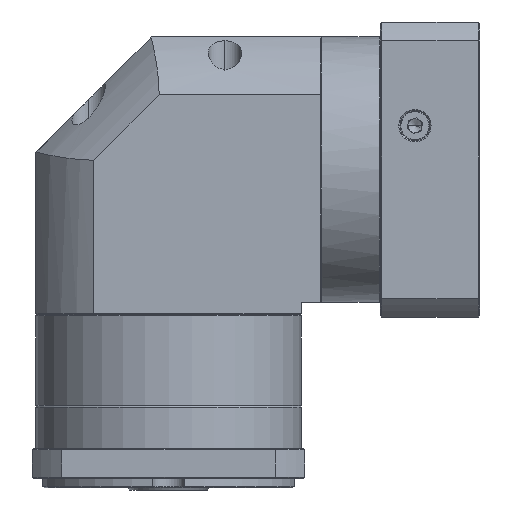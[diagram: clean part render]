
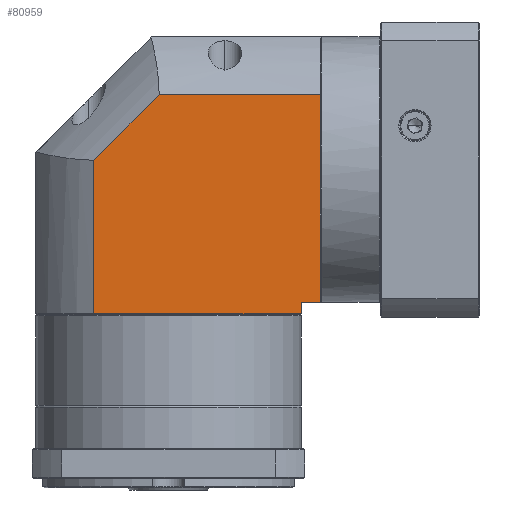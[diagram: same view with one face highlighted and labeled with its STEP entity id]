
A CAD part, front view. The second image highlights one B-rep face of the part: STEP entity #80959.
In plain terms, the highlighted planar face has unit normal (0, -1, 0).
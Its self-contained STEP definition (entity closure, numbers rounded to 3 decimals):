
#1363 = ORIENTED_EDGE ( 'NONE', *, *, #42111, .F. ) ;
#1823 = LINE ( 'NONE', #4128, #15687 ) ;
#4128 = CARTESIAN_POINT ( 'NONE',  ( -29.587, 1.133, 29.773 ) ) ;
#5817 = DIRECTION ( 'NONE',  ( 1., 0., 0. ) ) ;
#6758 = DIRECTION ( 'NONE',  ( 0.707, 0., 0.707 ) ) ;
#9521 = LINE ( 'NONE', #89483, #114785 ) ;
#10115 = LINE ( 'NONE', #60076, #93584 ) ;
#12223 = VECTOR ( 'NONE', #6758, 1000. ) ;
#12822 = ORIENTED_EDGE ( 'NONE', *, *, #92832, .F. ) ;
#13108 = EDGE_CURVE ( 'NONE', #30122, #115477, #80312, .T. ) ;
#14505 = VERTEX_POINT ( 'NONE', #37762 ) ;
#15687 = VECTOR ( 'NONE', #5817, 1000. ) ;
#16628 = ORIENTED_EDGE ( 'NONE', *, *, #13108, .F. ) ;
#21612 = LINE ( 'NONE', #66946, #12223 ) ;
#28754 = CARTESIAN_POINT ( 'NONE',  ( 93.813, 1.133, -71.627 ) ) ;
#29833 = DIRECTION ( 'NONE',  ( -1., 0., 0. ) ) ;
#30122 = VERTEX_POINT ( 'NONE', #92328 ) ;
#37762 = CARTESIAN_POINT ( 'NONE',  ( 85.413, 1.133, -60.127 ) ) ;
#42111 = EDGE_CURVE ( 'NONE', #14505, #55729, #9521, .T. ) ;
#47458 = CARTESIAN_POINT ( 'NONE',  ( 85.413, 1.133, -65.127 ) ) ;
#48299 = EDGE_CURVE ( 'NONE', #115477, #14505, #123762, .T. ) ;
#51706 = PLANE ( 'NONE',  #58273 ) ;
#54011 = VECTOR ( 'NONE', #107848, 1000. ) ;
#55729 = VERTEX_POINT ( 'NONE', #47458 ) ;
#58273 = AXIS2_PLACEMENT_3D ( 'NONE', #120917, #121354, #110927 ) ;
#60076 = CARTESIAN_POINT ( 'NONE',  ( -29.587, 1.133, -65.127 ) ) ;
#66946 = CARTESIAN_POINT ( 'NONE',  ( -4.487, 1.133, 1.435 ) ) ;
#67477 = ORIENTED_EDGE ( 'NONE', *, *, #48299, .F. ) ;
#69761 = CARTESIAN_POINT ( 'NONE',  ( -4.487, 1.133, -71.627 ) ) ;
#71167 = VECTOR ( 'NONE', #99321, 1000. ) ;
#78993 = EDGE_LOOP ( 'NONE', ( #1363, #67477, #16628, #90024, #117653, #12822, #116141 ) ) ;
#80056 = DIRECTION ( 'NONE',  ( 0., 0., 1. ) ) ;
#80312 = LINE ( 'NONE', #28754, #54011 ) ;
#80959 = ADVANCED_FACE ( 'NONE', ( #94355 ), #51706, .F. ) ;
#86045 = CARTESIAN_POINT ( 'NONE',  ( 93.813, 1.133, -60.127 ) ) ;
#89483 = CARTESIAN_POINT ( 'NONE',  ( 85.413, 1.133, -71.627 ) ) ;
#89668 = VERTEX_POINT ( 'NONE', #96528 ) ;
#90024 = ORIENTED_EDGE ( 'NONE', *, *, #108953, .F. ) ;
#92328 = CARTESIAN_POINT ( 'NONE',  ( 93.813, 1.133, 29.773 ) ) ;
#92832 = EDGE_CURVE ( 'NONE', #95920, #89668, #110106, .T. ) ;
#93584 = VECTOR ( 'NONE', #29833, 1000. ) ;
#94355 = FACE_OUTER_BOUND ( 'NONE', #78993, .T. ) ;
#95920 = VERTEX_POINT ( 'NONE', #121886 ) ;
#96528 = CARTESIAN_POINT ( 'NONE',  ( -4.487, 1.133, 1.435 ) ) ;
#99321 = DIRECTION ( 'NONE',  ( -1., 0., 0. ) ) ;
#99723 = CARTESIAN_POINT ( 'NONE',  ( -29.587, 1.133, -60.127 ) ) ;
#101570 = VERTEX_POINT ( 'NONE', #104597 ) ;
#104597 = CARTESIAN_POINT ( 'NONE',  ( 23.851, 1.133, 29.773 ) ) ;
#107848 = DIRECTION ( 'NONE',  ( 0., 0., -1. ) ) ;
#108074 = DIRECTION ( 'NONE',  ( 0., 0., -1. ) ) ;
#108953 = EDGE_CURVE ( 'NONE', #101570, #30122, #1823, .T. ) ;
#110106 = LINE ( 'NONE', #69761, #111702 ) ;
#110927 = DIRECTION ( 'NONE',  ( 1., 0., 0. ) ) ;
#111702 = VECTOR ( 'NONE', #80056, 1000. ) ;
#114785 = VECTOR ( 'NONE', #108074, 1000. ) ;
#115477 = VERTEX_POINT ( 'NONE', #86045 ) ;
#115884 = EDGE_CURVE ( 'NONE', #89668, #101570, #21612, .T. ) ;
#116141 = ORIENTED_EDGE ( 'NONE', *, *, #124236, .F. ) ;
#117653 = ORIENTED_EDGE ( 'NONE', *, *, #115884, .F. ) ;
#120917 = CARTESIAN_POINT ( 'NONE',  ( -29.587, 1.133, -71.627 ) ) ;
#121354 = DIRECTION ( 'NONE',  ( 0., 1., 0. ) ) ;
#121886 = CARTESIAN_POINT ( 'NONE',  ( -4.487, 1.133, -65.127 ) ) ;
#123762 = LINE ( 'NONE', #99723, #71167 ) ;
#124236 = EDGE_CURVE ( 'NONE', #55729, #95920, #10115, .T. ) ;
